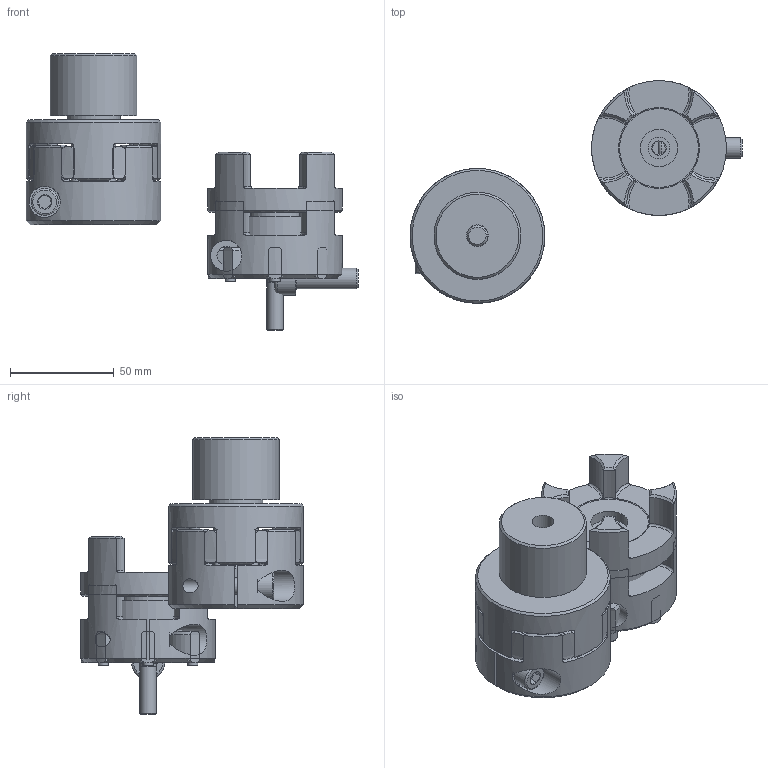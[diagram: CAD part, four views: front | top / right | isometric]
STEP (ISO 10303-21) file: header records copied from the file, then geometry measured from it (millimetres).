
FILE_DESCRIPTION( ( 'Unknown' ), '1' );
FILE_NAME( 'K:/Konstruktion/KBE Fertigungszeichnungen/KBE4/HP/KBE4-28.stp', 'Unknown', ( 'Unknown' ), ( 'Unknown' ), 'XStep 1.0', 'Unknown', ' ' );
FILE_SCHEMA( ( 'automotive_design' ) );
Length unit declared in the file: millimetre
Products named in the file (6): Assem1; KBE 2C - 28_Nabe; Zahnkranz EK28_D30; ISO EN DIN 4762 M8x25; Socket Head Cap Screw_DIN_DIN 912 M10 x 30 --- 30N; KBE 4 - 28_Nabe-D
Bounding box: 159.98 x 107.37 x 133.45 mm (x, y, z)
Volume: 366706.9 mm3; surface area: 97237.9 mm2
Topology: 10 solids, 10 shells, 492 faces, 1190 edges, 752 vertices
Faces by surface type: cylinder 162, cone 158, plane 128, torus 44
Full cylindrical faces by diameter (mm): 5 x16, 6.8 x2, 7 x2, 8 x4, 9 x2, 10 x2, 10.5 x2, 13 x2, 16 x2, 18 x2, 26 x2, 30 x2, 42 x2, 65 x2
Entity records: 7880 total; most frequent: CARTESIAN_POINT 2047, DIRECTION 1195, ORIENTED_EDGE 1106, EDGE_CURVE 553, AXIS2_PLACEMENT_3D 542, VERTEX_POINT 368, EDGE_LOOP 304, CIRCLE 290
